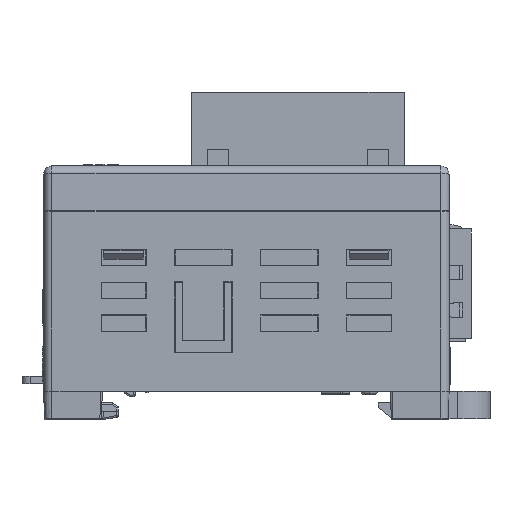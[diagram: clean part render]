
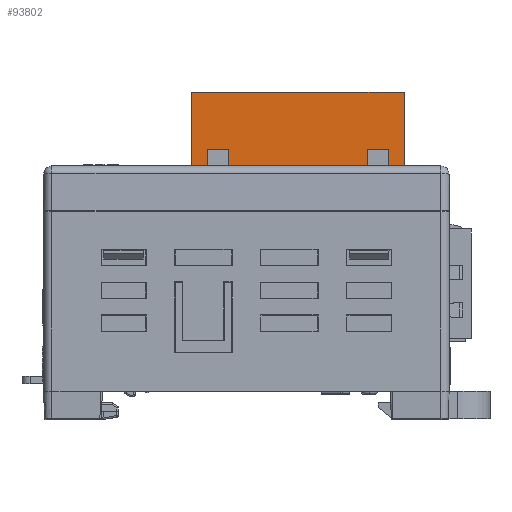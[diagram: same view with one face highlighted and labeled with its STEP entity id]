
A CAD part, left-side view. The second image highlights one B-rep face of the part: STEP entity #93802.
In plain terms, the highlighted planar face has unit normal (-1, 0, 0).
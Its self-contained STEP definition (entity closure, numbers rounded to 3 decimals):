
#1058=DIRECTION('',(0.,1.,0.));
#1059=VECTOR('',#1058,1.);
#1060=CARTESIAN_POINT('',(-13.22,-19.25,27.5));
#1061=LINE('',#1060,#1059);
#1074=DIRECTION('',(0.,1.,0.));
#1075=VECTOR('',#1074,1.);
#1076=CARTESIAN_POINT('',(-13.22,-13.3,27.5));
#1077=LINE('',#1076,#1075);
#1090=DIRECTION('',(0.,1.,0.));
#1091=VECTOR('',#1090,1.);
#1092=CARTESIAN_POINT('',(-13.22,-6.8,27.5));
#1093=LINE('',#1092,#1091);
#1106=DIRECTION('',(0.,1.,0.));
#1107=VECTOR('',#1106,1.);
#1108=CARTESIAN_POINT('',(-13.22,-0.3,27.5));
#1109=LINE('',#1108,#1107);
#1122=DIRECTION('',(0.,1.,0.));
#1123=VECTOR('',#1122,1.);
#1124=CARTESIAN_POINT('',(-13.22,5.65,27.5));
#1125=LINE('',#1124,#1123);
#8272=DIRECTION('',(0.,-1.,0.));
#8273=VECTOR('',#8272,0.9);
#8274=CARTESIAN_POINT('',(-13.22,-17.35,28.));
#8275=LINE('',#8274,#8273);
#8276=DIRECTION('',(0.,-1.,0.));
#8277=VECTOR('',#8276,2.6);
#8278=CARTESIAN_POINT('',(-13.22,-14.75,33.));
#8279=LINE('',#8278,#8277);
#8280=DIRECTION('',(0.,0.,1.));
#8281=VECTOR('',#8280,5.);
#8282=CARTESIAN_POINT('',(-13.22,-14.75,28.));
#8283=LINE('',#8282,#8281);
#8284=DIRECTION('',(0.,-1.,0.));
#8285=VECTOR('',#8284,1.45);
#8286=CARTESIAN_POINT('',(-13.22,-13.3,28.));
#8287=LINE('',#8286,#8285);
#8288=DIRECTION('',(0.,-1.,0.));
#8289=VECTOR('',#8288,5.5);
#8290=CARTESIAN_POINT('',(-13.22,-6.8,28.));
#8291=LINE('',#8290,#8289);
#8292=DIRECTION('',(0.,-1.,0.));
#8293=VECTOR('',#8292,5.5);
#8294=CARTESIAN_POINT('',(-13.22,-0.3,28.));
#8295=LINE('',#8294,#8293);
#8296=DIRECTION('',(0.,-1.,0.));
#8297=VECTOR('',#8296,1.45);
#8298=CARTESIAN_POINT('',(-13.22,2.15,28.));
#8299=LINE('',#8298,#8297);
#8300=DIRECTION('',(0.,-1.,0.));
#8301=VECTOR('',#8300,0.9);
#8302=CARTESIAN_POINT('',(-13.22,5.65,28.));
#8303=LINE('',#8302,#8301);
#8312=DIRECTION('',(0.,0.,1.));
#8313=VECTOR('',#8312,0.5);
#8314=CARTESIAN_POINT('',(-13.22,-18.25,27.5));
#8315=LINE('',#8314,#8313);
#8328=DIRECTION('',(0.,0.,-1.));
#8329=VECTOR('',#8328,12.5);
#8330=CARTESIAN_POINT('',(-13.22,-19.25,40.));
#8331=LINE('',#8330,#8329);
#8460=DIRECTION('',(0.,0.,1.));
#8461=VECTOR('',#8460,12.5);
#8462=CARTESIAN_POINT('',(-13.22,6.65,27.5));
#8463=LINE('',#8462,#8461);
#10210=DIRECTION('',(0.,0.,-1.));
#10211=VECTOR('',#10210,0.5);
#10212=CARTESIAN_POINT('',(-13.22,5.65,28.));
#10213=LINE('',#10212,#10211);
#10478=DIRECTION('',(0.,0.,-1.));
#10479=VECTOR('',#10478,5.);
#10480=CARTESIAN_POINT('',(-13.22,-17.35,33.));
#10481=LINE('',#10480,#10479);
#10814=DIRECTION('',(0.,0.,1.));
#10815=VECTOR('',#10814,5.);
#10816=CARTESIAN_POINT('',(-13.22,4.75,28.));
#10817=LINE('',#10816,#10815);
#10834=DIRECTION('',(0.,-1.,0.));
#10835=VECTOR('',#10834,2.6);
#10836=CARTESIAN_POINT('',(-13.22,4.75,33.));
#10837=LINE('',#10836,#10835);
#10842=DIRECTION('',(0.,0.,-1.));
#10843=VECTOR('',#10842,5.);
#10844=CARTESIAN_POINT('',(-13.22,2.15,33.));
#10845=LINE('',#10844,#10843);
#13798=DIRECTION('',(0.,-1.,0.));
#13799=VECTOR('',#13798,25.9);
#13800=CARTESIAN_POINT('',(-13.22,6.65,40.));
#13801=LINE('',#13800,#13799);
#14058=DIRECTION('',(0.,0.,-1.));
#14059=VECTOR('',#14058,0.5);
#14060=CARTESIAN_POINT('',(-13.22,-13.3,28.));
#14061=LINE('',#14060,#14059);
#14082=DIRECTION('',(0.,0.,1.));
#14083=VECTOR('',#14082,0.5);
#14084=CARTESIAN_POINT('',(-13.22,-12.3,27.5));
#14085=LINE('',#14084,#14083);
#14086=DIRECTION('',(0.,0.,-1.));
#14087=VECTOR('',#14086,0.5);
#14088=CARTESIAN_POINT('',(-13.22,-6.8,28.));
#14089=LINE('',#14088,#14087);
#14110=DIRECTION('',(0.,0.,1.));
#14111=VECTOR('',#14110,0.5);
#14112=CARTESIAN_POINT('',(-13.22,-5.8,27.5));
#14113=LINE('',#14112,#14111);
#14114=DIRECTION('',(0.,0.,-1.));
#14115=VECTOR('',#14114,0.5);
#14116=CARTESIAN_POINT('',(-13.22,-0.3,28.));
#14117=LINE('',#14116,#14115);
#14138=DIRECTION('',(0.,0.,1.));
#14139=VECTOR('',#14138,0.5);
#14140=CARTESIAN_POINT('',(-13.22,0.7,27.5));
#14141=LINE('',#14140,#14139);
#66515=CARTESIAN_POINT('',(-13.22,-14.75,28.));
#66517=VERTEX_POINT('',#66515);
#66520=CARTESIAN_POINT('',(-13.22,-17.35,28.));
#66521=VERTEX_POINT('',#66520);
#66522=CARTESIAN_POINT('',(-13.22,-18.25,28.));
#66523=VERTEX_POINT('',#66522);
#66600=CARTESIAN_POINT('',(-13.22,5.65,28.));
#66601=VERTEX_POINT('',#66600);
#66602=CARTESIAN_POINT('',(-13.22,4.75,28.));
#66603=VERTEX_POINT('',#66602);
#66608=CARTESIAN_POINT('',(-13.22,2.15,28.));
#66609=VERTEX_POINT('',#66608);
#66610=CARTESIAN_POINT('',(-13.22,0.7,28.));
#66611=VERTEX_POINT('',#66610);
#66616=CARTESIAN_POINT('',(-13.22,-0.3,28.));
#66617=VERTEX_POINT('',#66616);
#66618=CARTESIAN_POINT('',(-13.22,-5.8,28.));
#66619=VERTEX_POINT('',#66618);
#66624=CARTESIAN_POINT('',(-13.22,-6.8,28.));
#66625=VERTEX_POINT('',#66624);
#66626=CARTESIAN_POINT('',(-13.22,-12.3,28.));
#66627=VERTEX_POINT('',#66626);
#66632=CARTESIAN_POINT('',(-13.22,-13.3,28.));
#66633=VERTEX_POINT('',#66632);
#67636=CARTESIAN_POINT('',(-13.22,-17.35,33.));
#67637=VERTEX_POINT('',#67636);
#67638=CARTESIAN_POINT('',(-13.22,-14.75,33.));
#67639=VERTEX_POINT('',#67638);
#67640=CARTESIAN_POINT('',(-13.22,2.15,33.));
#67641=VERTEX_POINT('',#67640);
#67642=CARTESIAN_POINT('',(-13.22,4.75,33.));
#67643=VERTEX_POINT('',#67642);
#67644=CARTESIAN_POINT('',(-13.22,6.65,40.));
#67645=CARTESIAN_POINT('',(-13.22,-19.25,40.));
#67646=VERTEX_POINT('',#67644);
#67647=VERTEX_POINT('',#67645);
#78062=CARTESIAN_POINT('',(-13.22,-19.25,27.5));
#78063=CARTESIAN_POINT('',(-13.22,-18.25,27.5));
#78064=VERTEX_POINT('',#78062);
#78065=VERTEX_POINT('',#78063);
#78066=CARTESIAN_POINT('',(-13.22,-13.3,27.5));
#78067=CARTESIAN_POINT('',(-13.22,-12.3,27.5));
#78068=VERTEX_POINT('',#78066);
#78069=VERTEX_POINT('',#78067);
#78070=CARTESIAN_POINT('',(-13.22,-6.8,27.5));
#78071=CARTESIAN_POINT('',(-13.22,-5.8,27.5));
#78072=VERTEX_POINT('',#78070);
#78073=VERTEX_POINT('',#78071);
#78074=CARTESIAN_POINT('',(-13.22,-0.3,27.5));
#78075=CARTESIAN_POINT('',(-13.22,0.7,27.5));
#78076=VERTEX_POINT('',#78074);
#78077=VERTEX_POINT('',#78075);
#78078=CARTESIAN_POINT('',(-13.22,5.65,27.5));
#78079=CARTESIAN_POINT('',(-13.22,6.65,27.5));
#78080=VERTEX_POINT('',#78078);
#78081=VERTEX_POINT('',#78079);
#93751=CARTESIAN_POINT('',(-13.22,-6.3,33.5));
#93752=DIRECTION('',(1.,0.,0.));
#93753=DIRECTION('',(0.,0.,-1.));
#93754=AXIS2_PLACEMENT_3D('',#93751,#93752,#93753);
#93755=PLANE('',#93754);
#93756=ORIENTED_EDGE('',*,*,#79805,.T.);
#93758=ORIENTED_EDGE('',*,*,#93757,.T.);
#93759=ORIENTED_EDGE('',*,*,#93083,.F.);
#93761=ORIENTED_EDGE('',*,*,#93760,.F.);
#93763=ORIENTED_EDGE('',*,*,#93762,.F.);
#93764=ORIENTED_EDGE('',*,*,#93733,.F.);
#93765=ORIENTED_EDGE('',*,*,#93195,.F.);
#93767=ORIENTED_EDGE('',*,*,#93766,.T.);
#93768=ORIENTED_EDGE('',*,*,#79815,.T.);
#93770=ORIENTED_EDGE('',*,*,#93769,.T.);
#93771=ORIENTED_EDGE('',*,*,#93187,.F.);
#93773=ORIENTED_EDGE('',*,*,#93772,.T.);
#93774=ORIENTED_EDGE('',*,*,#79825,.T.);
#93776=ORIENTED_EDGE('',*,*,#93775,.T.);
#93777=ORIENTED_EDGE('',*,*,#93179,.F.);
#93779=ORIENTED_EDGE('',*,*,#93778,.T.);
#93780=ORIENTED_EDGE('',*,*,#79835,.T.);
#93782=ORIENTED_EDGE('',*,*,#93781,.T.);
#93783=ORIENTED_EDGE('',*,*,#93171,.F.);
#93785=ORIENTED_EDGE('',*,*,#93784,.F.);
#93787=ORIENTED_EDGE('',*,*,#93786,.F.);
#93789=ORIENTED_EDGE('',*,*,#93788,.F.);
#93790=ORIENTED_EDGE('',*,*,#93163,.F.);
#93792=ORIENTED_EDGE('',*,*,#93791,.T.);
#93793=ORIENTED_EDGE('',*,*,#79845,.T.);
#93795=ORIENTED_EDGE('',*,*,#93794,.T.);
#93797=ORIENTED_EDGE('',*,*,#93796,.T.);
#93799=ORIENTED_EDGE('',*,*,#93798,.T.);
#93800=EDGE_LOOP('',(#93756,#93758,#93759,#93761,#93763,#93764,#93765,#93767,
#93768,#93770,#93771,#93773,#93774,#93776,#93777,#93779,#93780,#93782,#93783,
#93785,#93787,#93789,#93790,#93792,#93793,#93795,#93797,#93799));
#93801=FACE_OUTER_BOUND('',#93800,.F.);
#93802=ADVANCED_FACE('',(#93801),#93755,.F.);
#79805=EDGE_CURVE('',#78064,#78065,#1061,.T.);
#79815=EDGE_CURVE('',#78068,#78069,#1077,.T.);
#79825=EDGE_CURVE('',#78072,#78073,#1093,.T.);
#79835=EDGE_CURVE('',#78076,#78077,#1109,.T.);
#79845=EDGE_CURVE('',#78080,#78081,#1125,.T.);
#93083=EDGE_CURVE('',#66521,#66523,#8275,.T.);
#93163=EDGE_CURVE('',#66601,#66603,#8303,.T.);
#93171=EDGE_CURVE('',#66609,#66611,#8299,.T.);
#93179=EDGE_CURVE('',#66617,#66619,#8295,.T.);
#93187=EDGE_CURVE('',#66625,#66627,#8291,.T.);
#93195=EDGE_CURVE('',#66633,#66517,#8287,.T.);
#93733=EDGE_CURVE('',#66517,#67639,#8283,.T.);
#93757=EDGE_CURVE('',#78065,#66523,#8315,.T.);
#93760=EDGE_CURVE('',#67637,#66521,#10481,.T.);
#93762=EDGE_CURVE('',#67639,#67637,#8279,.T.);
#93766=EDGE_CURVE('',#66633,#78068,#14061,.T.);
#93769=EDGE_CURVE('',#78069,#66627,#14085,.T.);
#93772=EDGE_CURVE('',#66625,#78072,#14089,.T.);
#93775=EDGE_CURVE('',#78073,#66619,#14113,.T.);
#93778=EDGE_CURVE('',#66617,#78076,#14117,.T.);
#93781=EDGE_CURVE('',#78077,#66611,#14141,.T.);
#93784=EDGE_CURVE('',#67641,#66609,#10845,.T.);
#93786=EDGE_CURVE('',#67643,#67641,#10837,.T.);
#93788=EDGE_CURVE('',#66603,#67643,#10817,.T.);
#93791=EDGE_CURVE('',#66601,#78080,#10213,.T.);
#93794=EDGE_CURVE('',#78081,#67646,#8463,.T.);
#93796=EDGE_CURVE('',#67646,#67647,#13801,.T.);
#93798=EDGE_CURVE('',#67647,#78064,#8331,.T.);
